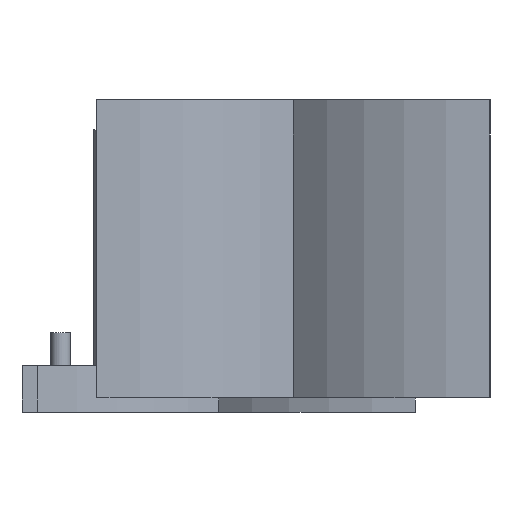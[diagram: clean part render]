
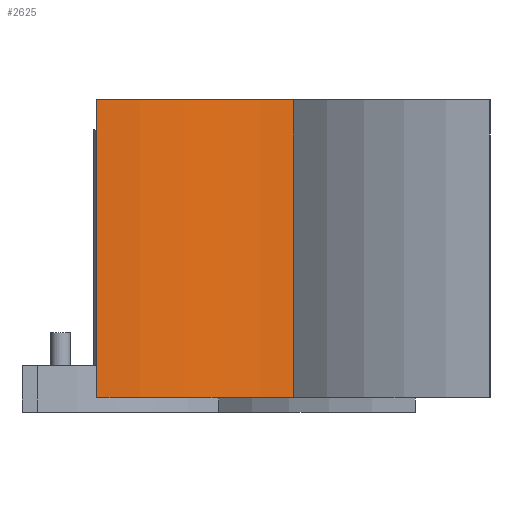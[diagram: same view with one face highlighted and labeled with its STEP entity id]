
A CAD part, front view. The second image highlights one B-rep face of the part: STEP entity #2625.
In plain terms, the highlighted cylindrical face has radius 41.965 mm (diameter 83.93 mm), a partial arc.
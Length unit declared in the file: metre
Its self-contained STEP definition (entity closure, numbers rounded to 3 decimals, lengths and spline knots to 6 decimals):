
#75=LINE('',#4424,#103);
#76=LINE('',#4428,#104);
#103=VECTOR('',#3584,1.);
#104=VECTOR('',#3589,1.);
#345=ORIENTED_EDGE('',*,*,#806,.F.);
#346=ORIENTED_EDGE('',*,*,#870,.F.);
#347=ORIENTED_EDGE('',*,*,#871,.T.);
#348=ORIENTED_EDGE('',*,*,#868,.T.);
#806=EDGE_CURVE('',#1087,#1088,#1352,.T.);
#868=EDGE_CURVE('',#1145,#1088,#75,.T.);
#870=EDGE_CURVE('',#1146,#1087,#76,.T.);
#871=EDGE_CURVE('',#1146,#1145,#1409,.T.);
#1087=VERTEX_POINT('',#4299);
#1088=VERTEX_POINT('',#4301);
#1145=VERTEX_POINT('',#4425);
#1146=VERTEX_POINT('',#4429);
#1352=CIRCLE('',#2894,0.041965);
#1409=CIRCLE('',#2957,0.041965);
#1672=EDGE_LOOP('',(#345,#346,#347,#348));
#2138=FACE_BOUND('',#1672,.T.);
#2481=CYLINDRICAL_SURFACE('',#2956,0.041965);
#2625=ADVANCED_FACE('',(#2138),#2481,.T.);
#2894=AXIS2_PLACEMENT_3D('',#4300,#3456,#3457);
#2956=AXIS2_PLACEMENT_3D('',#4427,#3587,#3588);
#2957=AXIS2_PLACEMENT_3D('',#4430,#3590,#3591);
#3456=DIRECTION('',(0.,0.,-1.));
#3457=DIRECTION('',(1.,0.,0.));
#3584=DIRECTION('',(0.,0.,-1.));
#3587=DIRECTION('',(0.,0.,-1.));
#3588=DIRECTION('',(-1.,0.,0.));
#3589=DIRECTION('',(0.,0.,-1.));
#3590=DIRECTION('',(0.,0.,-1.));
#3591=DIRECTION('',(1.,0.,0.));
#4299=CARTESIAN_POINT('',(-0.052933,0.017569,0.));
#4300=CARTESIAN_POINT('',(-0.082643,0.047206,0.));
#4301=CARTESIAN_POINT('',(-0.082643,0.005241,0.));
#4424=CARTESIAN_POINT('',(-0.082643,0.005241,0.045));
#4425=CARTESIAN_POINT('',(-0.082643,0.005241,0.045));
#4427=CARTESIAN_POINT('',(-0.082643,0.047206,0.045));
#4428=CARTESIAN_POINT('',(-0.052933,0.017569,0.045));
#4429=CARTESIAN_POINT('',(-0.052933,0.017569,0.045));
#4430=CARTESIAN_POINT('',(-0.082643,0.047206,0.045));
